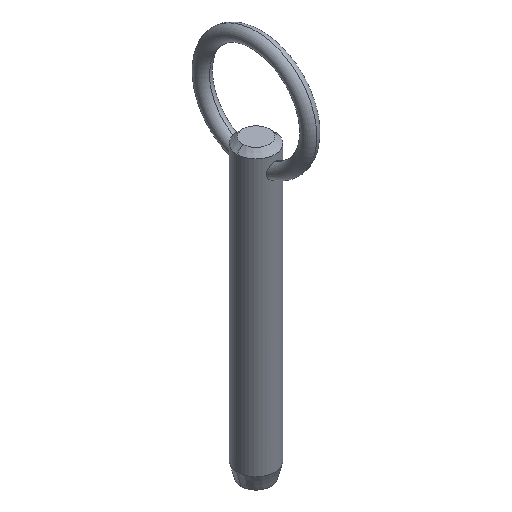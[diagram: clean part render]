
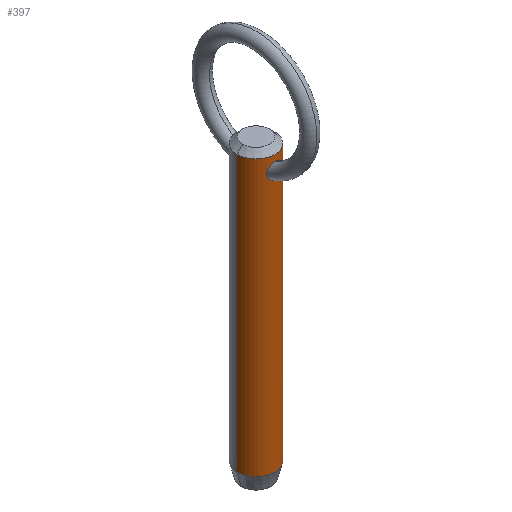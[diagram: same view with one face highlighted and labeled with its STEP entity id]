
A CAD part, isometric view. The second image highlights one B-rep face of the part: STEP entity #397.
In plain terms, the highlighted cylindrical face has radius 3.965 mm (diameter 7.93 mm), a partial arc.
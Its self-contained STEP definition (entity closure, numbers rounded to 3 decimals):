
#3 = EDGE_CURVE ( 'NONE', #13, #420, #504, .T. ) ;
#4 = CARTESIAN_POINT ( 'NONE',  ( 0.102, -3.965, 49.547 ) ) ;
#6 = LINE ( 'NONE', #387, #394 ) ;
#11 = CARTESIAN_POINT ( 'NONE',  ( -1.48, -3.679, 47.489 ) ) ;
#13 = VERTEX_POINT ( 'NONE', #354 ) ;
#27 = EDGE_CURVE ( 'NONE', #159, #184, #310, .T. ) ;
#29 = CARTESIAN_POINT ( 'NONE',  ( 0., 0., 45.7 ) ) ;
#38 = CARTESIAN_POINT ( 'NONE',  ( 0.205, -3.965, 46.335 ) ) ;
#41 = CARTESIAN_POINT ( 'NONE',  ( 0.404, -3.946, 49.482 ) ) ;
#44 = CARTESIAN_POINT ( 'NONE',  ( 1.237, -3.77, 46.931 ) ) ;
#51 = CARTESIAN_POINT ( 'NONE',  ( -1.229, -3.77, 46.939 ) ) ;
#55 = CARTESIAN_POINT ( 'NONE',  ( -0.925, -3.858, 49.168 ) ) ;
#67 = EDGE_CURVE ( 'NONE', #500, #184, #86, .T. ) ;
#82 = CARTESIAN_POINT ( 'NONE',  ( 1.404, -3.708, 48.401 ) ) ;
#83 = AXIS2_PLACEMENT_3D ( 'NONE', #29, #107, #422 ) ;
#84 = CARTESIAN_POINT ( 'NONE',  ( 0.782, -3.888, 46.537 ) ) ;
#86 = CIRCLE ( 'NONE', #461, 3.965 ) ;
#89 = CARTESIAN_POINT ( 'NONE',  ( -1.508, -3.667, 47.697 ) ) ;
#93 = ORIENTED_EDGE ( 'NONE', *, *, #67, .T. ) ;
#95 = DIRECTION ( 'NONE',  ( 1., 0., 0. ) ) ;
#103 = EDGE_LOOP ( 'NONE', ( #229, #169, #194, #93 ) ) ;
#105 = EDGE_CURVE ( 'NONE', #159, #401, #506, .T. ) ;
#107 = DIRECTION ( 'NONE',  ( 0., 0., -1. ) ) ;
#108 = AXIS2_PLACEMENT_3D ( 'NONE', #323, #132, #95 ) ;
#114 = CARTESIAN_POINT ( 'NONE',  ( -3.965, 0., 50.85 ) ) ;
#120 = EDGE_CURVE ( 'NONE', #420, #13, #382, .T. ) ;
#127 = CARTESIAN_POINT ( 'NONE',  ( -0.41, -3.948, 46.374 ) ) ;
#132 = DIRECTION ( 'NONE',  ( 0., 0., -1. ) ) ;
#134 = CARTESIAN_POINT ( 'NONE',  ( -1.186, -3.786, 48.86 ) ) ;
#138 = CARTESIAN_POINT ( 'NONE',  ( -1.441, -3.695, 48.308 ) ) ;
#140 = CARTESIAN_POINT ( 'NONE',  ( 3.965, 0., 50.85 ) ) ;
#145 = CYLINDRICAL_SURFACE ( 'NONE', #83, 3.965 ) ;
#151 = DIRECTION ( 'NONE',  ( 0., 0., -1. ) ) ;
#153 = ORIENTED_EDGE ( 'NONE', *, *, #3, .T. ) ;
#155 = CARTESIAN_POINT ( 'NONE',  ( 0., -3.965, 46.335 ) ) ;
#157 = CARTESIAN_POINT ( 'NONE',  ( 0.925, -3.858, 49.168 ) ) ;
#159 = VERTEX_POINT ( 'NONE', #140 ) ;
#161 = CARTESIAN_POINT ( 'NONE',  ( 1.493, -3.673, 48.004 ) ) ;
#164 = CARTESIAN_POINT ( 'NONE',  ( 0., -3.965, 46.335 ) ) ;
#165 = DIRECTION ( 'NONE',  ( -1., 0., 0. ) ) ;
#169 = ORIENTED_EDGE ( 'NONE', *, *, #105, .T. ) ;
#175 = CARTESIAN_POINT ( 'NONE',  ( -1.488, -3.675, 48.105 ) ) ;
#184 = VERTEX_POINT ( 'NONE', #257 ) ;
#194 = ORIENTED_EDGE ( 'NONE', *, *, #435, .T. ) ;
#196 = CARTESIAN_POINT ( 'NONE',  ( 1.291, -3.75, 48.683 ) ) ;
#197 = CARTESIAN_POINT ( 'NONE',  ( 1.447, -3.692, 47.393 ) ) ;
#199 = CARTESIAN_POINT ( 'NONE',  ( 1.346, -3.73, 47.108 ) ) ;
#206 = CARTESIAN_POINT ( 'NONE',  ( -0.957, -3.85, 46.641 ) ) ;
#229 = ORIENTED_EDGE ( 'NONE', *, *, #27, .F. ) ;
#236 = CARTESIAN_POINT ( 'NONE',  ( 0., -3.965, 49.547 ) ) ;
#241 = CARTESIAN_POINT ( 'NONE',  ( 1.028, -3.83, 46.715 ) ) ;
#247 = CARTESIAN_POINT ( 'NONE',  ( 0., 0., -6.52 ) ) ;
#250 = CARTESIAN_POINT ( 'NONE',  ( -1.335, -3.734, 47.11 ) ) ;
#254 = EDGE_LOOP ( 'NONE', ( #153, #316 ) ) ;
#255 = FACE_BOUND ( 'NONE', #254, .T. ) ;
#257 = CARTESIAN_POINT ( 'NONE',  ( 3.965, 0., -6.52 ) ) ;
#276 = CARTESIAN_POINT ( 'NONE',  ( 1.186, -3.786, 48.859 ) ) ;
#282 = CARTESIAN_POINT ( 'NONE',  ( 1.499, -3.671, 47.697 ) ) ;
#284 = CARTESIAN_POINT ( 'NONE',  ( 0.409, -3.948, 46.374 ) ) ;
#300 = CARTESIAN_POINT ( 'NONE',  ( -0.102, -3.965, 49.547 ) ) ;
#306 = FACE_OUTER_BOUND ( 'NONE', #103, .T. ) ;
#310 = LINE ( 'NONE', #390, #361 ) ;
#316 = ORIENTED_EDGE ( 'NONE', *, *, #120, .T. ) ;
#318 = CARTESIAN_POINT ( 'NONE',  ( 0.498, -3.935, 49.444 ) ) ;
#320 = CARTESIAN_POINT ( 'NONE',  ( 0.949, -3.851, 46.649 ) ) ;
#323 = CARTESIAN_POINT ( 'NONE',  ( 0., 0., 50.85 ) ) ;
#325 = CARTESIAN_POINT ( 'NONE',  ( 0., -3.965, 46.335 ) ) ;
#335 = CARTESIAN_POINT ( 'NONE',  ( -0.498, -3.935, 49.444 ) ) ;
#354 = CARTESIAN_POINT ( 'NONE',  ( 0., -3.965, 49.547 ) ) ;
#358 = CARTESIAN_POINT ( 'NONE',  ( 0.693, -3.905, 46.49 ) ) ;
#361 = VECTOR ( 'NONE', #364, 1000. ) ;
#364 = DIRECTION ( 'NONE',  ( 0., 0., -1. ) ) ;
#366 = CARTESIAN_POINT ( 'NONE',  ( -1.379, -3.718, 47.203 ) ) ;
#372 = CARTESIAN_POINT ( 'NONE',  ( -0.77, -3.894, 49.3 ) ) ;
#382 = B_SPLINE_CURVE_WITH_KNOTS ( 'NONE', 3,
 ( #325, #446, #127, #442, #206, #485, #51, #250, #366, #11, #89, #175, #138, #456, #134, #55, #372, #335, #495, #412, #300, #454 ),
 .UNSPECIFIED., .F., .F.,
 ( 4, 2, 2, 2, 2, 2, 2, 2, 2, 2, 4 ),
 ( 0.009, 0.01, 0.01, 0.011, 0.011, 0.012, 0.012, 0.013, 0.013, 0.014, 0.014 ),
 .UNSPECIFIED. ) ;
#384 = CARTESIAN_POINT ( 'NONE',  ( -3.965, 0., -6.52 ) ) ;
#387 = CARTESIAN_POINT ( 'NONE',  ( -3.965, 0., 45.7 ) ) ;
#390 = CARTESIAN_POINT ( 'NONE',  ( 3.965, 0., 45.7 ) ) ;
#394 = VECTOR ( 'NONE', #151, 1000. ) ;
#395 = CARTESIAN_POINT ( 'NONE',  ( 0.77, -3.894, 49.3 ) ) ;
#397 = ADVANCED_FACE ( 'NONE', ( #306, #255 ), #145, .T. ) ;
#398 = CARTESIAN_POINT ( 'NONE',  ( 1.479, -3.679, 48.107 ) ) ;
#400 = DIRECTION ( 'NONE',  ( 0., 0., 1. ) ) ;
#401 = VERTEX_POINT ( 'NONE', #114 ) ;
#412 = CARTESIAN_POINT ( 'NONE',  ( -0.206, -3.961, 49.534 ) ) ;
#420 = VERTEX_POINT ( 'NONE', #155 ) ;
#422 = DIRECTION ( 'NONE',  ( -1., 0., 0. ) ) ;
#435 = EDGE_CURVE ( 'NONE', #401, #500, #6, .T. ) ;
#437 = CARTESIAN_POINT ( 'NONE',  ( 1.471, -3.682, 47.494 ) ) ;
#440 = CARTESIAN_POINT ( 'NONE',  ( 1.434, -3.697, 48.305 ) ) ;
#442 = CARTESIAN_POINT ( 'NONE',  ( -0.788, -3.891, 46.528 ) ) ;
#446 = CARTESIAN_POINT ( 'NONE',  ( -0.205, -3.965, 46.335 ) ) ;
#454 = CARTESIAN_POINT ( 'NONE',  ( 0., -3.965, 49.547 ) ) ;
#456 = CARTESIAN_POINT ( 'NONE',  ( -1.29, -3.75, 48.685 ) ) ;
#461 = AXIS2_PLACEMENT_3D ( 'NONE', #247, #400, #165 ) ;
#481 = CARTESIAN_POINT ( 'NONE',  ( 1.503, -3.669, 47.799 ) ) ;
#485 = CARTESIAN_POINT ( 'NONE',  ( -1.168, -3.79, 46.859 ) ) ;
#495 = CARTESIAN_POINT ( 'NONE',  ( -0.403, -3.946, 49.482 ) ) ;
#500 = VERTEX_POINT ( 'NONE', #384 ) ;
#504 = B_SPLINE_CURVE_WITH_KNOTS ( 'NONE', 3,
 ( #236, #4, #512, #41, #318, #395, #157, #276, #196, #82, #440, #398, #161, #481, #282, #437, #197, #199, #44, #241, #320, #84, #358, #284, #38, #164 ),
 .UNSPECIFIED., .F., .F.,
 ( 4, 2, 2, 2, 2, 2, 2, 2, 2, 2, 2, 2, 4 ),
 ( 0.004, 0.005, 0.005, 0.005, 0.006, 0.006, 0.007, 0.007, 0.007, 0.008, 0.008, 0.008, 0.009 ),
 .UNSPECIFIED. ) ;
#506 = CIRCLE ( 'NONE', #108, 3.965 ) ;
#512 = CARTESIAN_POINT ( 'NONE',  ( 0.205, -3.961, 49.534 ) ) ;
